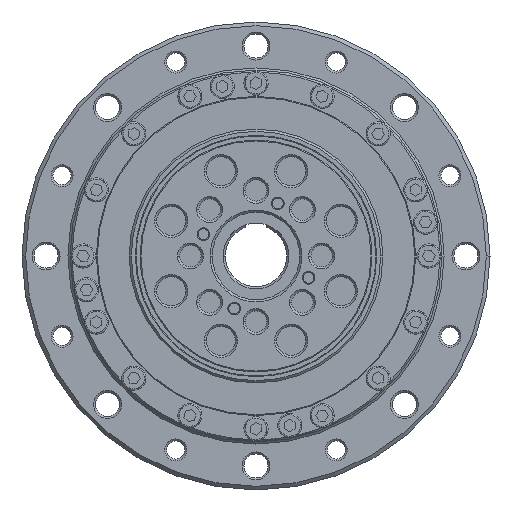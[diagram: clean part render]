
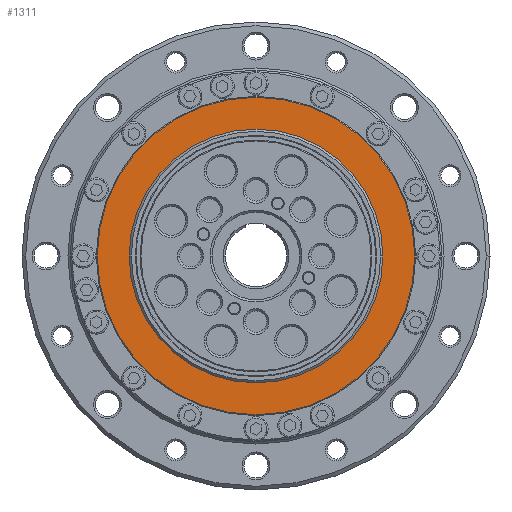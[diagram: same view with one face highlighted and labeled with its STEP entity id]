
A CAD part, left-side view. The second image highlights one B-rep face of the part: STEP entity #1311.
In plain terms, the highlighted planar face has unit normal (-1, 0, 0).
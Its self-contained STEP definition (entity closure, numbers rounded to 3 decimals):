
#1311=ADVANCED_FACE('NONE',(#2923,#2924),#2925,.T.);
#2923=FACE_OUTER_BOUND('',#5764,.T.);
#2924=FACE_BOUND('',#5765,.T.);
#2925=PLANE('',#5766);
#5764=EDGE_LOOP('',(#9552,#9553));
#5765=EDGE_LOOP('',(#9554,#9555));
#5766=AXIS2_PLACEMENT_3D('',#9556,#9557,#9558);
#9552=ORIENTED_EDGE('',*,*,#12290,.F.);
#9553=ORIENTED_EDGE('',*,*,#12943,.F.);
#9554=ORIENTED_EDGE('',*,*,#12306,.T.);
#9555=ORIENTED_EDGE('',*,*,#13087,.T.);
#9556=CARTESIAN_POINT('',(-45.5,0.,-35.0));
#9557=DIRECTION('',(-1.0,0.,0.));
#9558=DIRECTION('',(0.,0.0,-1.0));
#12290=EDGE_CURVE('NONE',#14675,#14676,#14677,.T.);
#12306=EDGE_CURVE('NONE',#14703,#14701,#14704,.T.);
#12943=EDGE_CURVE('NONE',#14676,#14675,#15564,.T.);
#13087=EDGE_CURVE('NONE',#14701,#14703,#15828,.T.);
#14675=VERTEX_POINT('NONE',#18169);
#14676=VERTEX_POINT('NONE',#18170);
#14677=CIRCLE('',#18171,36.3);
#14701=VERTEX_POINT('NONE',#18201);
#14703=VERTEX_POINT('NONE',#18204);
#14704=CIRCLE('',#18205,29.);
#15564=CIRCLE('',#19408,36.3);
#15828=CIRCLE('',#19792,29.);
#18169=CARTESIAN_POINT('',(-45.5,36.3,0.0));
#18170=CARTESIAN_POINT('',(-45.5,-36.3,0.));
#18171=AXIS2_PLACEMENT_3D('',#22065,#22066,#22067);
#18201=CARTESIAN_POINT('',(-45.5,-29.,0.));
#18204=CARTESIAN_POINT('',(-45.5,29.,0.0));
#18205=AXIS2_PLACEMENT_3D('',#22090,#22091,#22092);
#19408=AXIS2_PLACEMENT_3D('',#23067,#23068,#23069);
#19792=AXIS2_PLACEMENT_3D('',#23193,#23194,#23195);
#22065=CARTESIAN_POINT('',(-45.5,0.,0.0));
#22066=DIRECTION('',(1.0,0.0,0.0));
#22067=DIRECTION('',(0.0,1.0,0.0));
#22090=CARTESIAN_POINT('',(-45.5,0.0,0.0));
#22091=DIRECTION('',(1.0,0.0,0.0));
#22092=DIRECTION('',(0.0,1.0,0.0));
#23067=CARTESIAN_POINT('',(-45.5,0.,0.0));
#23068=DIRECTION('',(1.0,0.0,0.0));
#23069=DIRECTION('',(0.0,1.0,0.0));
#23193=CARTESIAN_POINT('',(-45.5,0.0,0.0));
#23194=DIRECTION('',(1.0,0.0,0.0));
#23195=DIRECTION('',(0.0,1.0,0.0));
